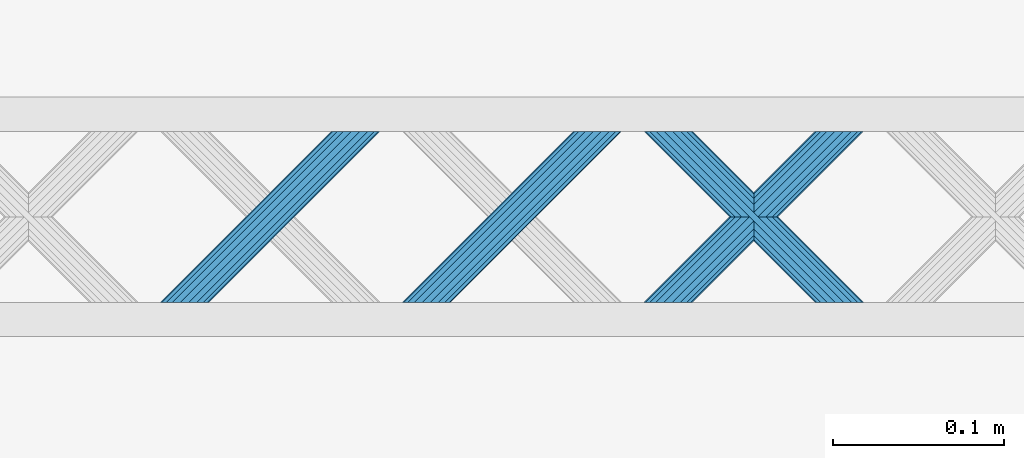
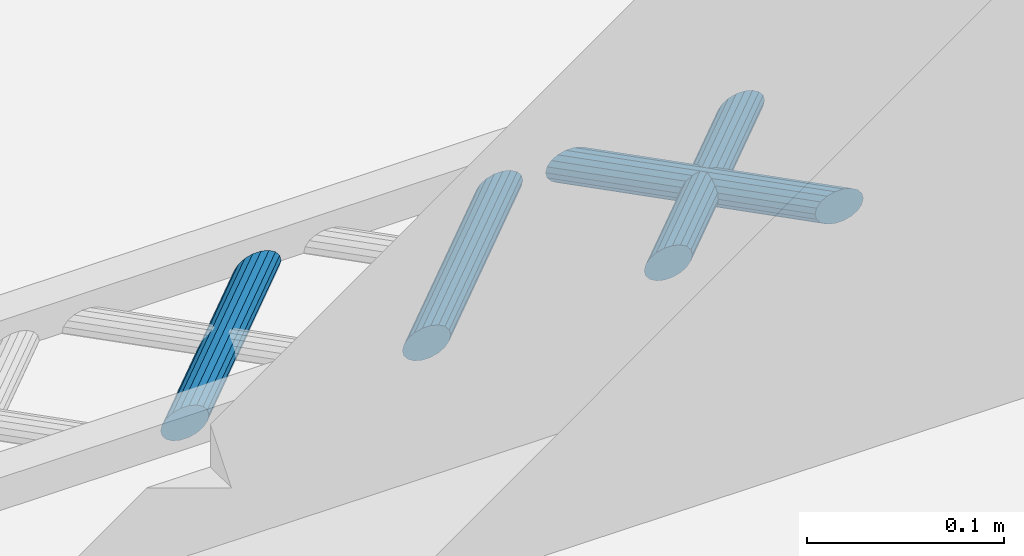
# One storey, part 68 of 133: 4 members, 1 element without a shape of its own.
"""IFC2X3 building model written with IfcOpenShell, lengths in centimetres."""

from ifc_helpers import new_model, entity, si_unit, converted_unit, direction, frame, origin, origin_with_axes, place, context, subcontext, project, spatial, faceted_brep, material, type_object, element, aggregate, save


model = new_model("IFC2X3")

# Units and contexts
model_context = context("Model", 3, precision=0.0001, world=origin(), true_north=direction((0.225632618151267, 0.974212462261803, 0.0)))
body_context = subcontext(model_context, "Body", "Model", "MODEL_VIEW")
ifc_project = project(units=[si_unit("LENGTHUNIT", "METRE", prefix="CENTI"), si_unit("AREAUNIT", "SQUARE_METRE", prefix="CENTI"), si_unit("VOLUMEUNIT", "CUBIC_METRE", prefix="CENTI"), converted_unit("PLANEANGLEUNIT", "DEGREE", entity("IfcRatioMeasure", 0.0174532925), si_unit("PLANEANGLEUNIT", "RADIAN"), dimensions=[0, 0, 0, 0, 0, 0, 0])], contexts=[model_context])

# Site, building, storey
site_placement = place(None, origin_with_axes())
site = spatial("IfcSite", under=ifc_project, at=site_placement, Name="Default Site", CompositionType="ELEMENT")
building_placement = place(site_placement, origin_with_axes())
building = spatial("IfcBuilding", under=site, at=building_placement, Name="Default Building", CompositionType="ELEMENT")
storey_placement = place(building_placement, frame((0.0, 0.0, -291.400371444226), z_axis=(0.0, 0.0, 1.0), x_axis=(1.0, 0.0, 0.0)))
storey = spatial("IfcBuildingStorey", under=building, at=storey_placement, Name="Rez-de-Jardin", CompositionType="ELEMENT", Elevation=-291.400371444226)

# Assembly, members
building_element_proxy_type = type_object("IfcBuildingElementProxyType", Name="Type Object", PredefinedType="NOTDEFINED")
assembly_placement = place(storey_placement, frame((-322.682568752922, 627.125798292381, 0.0), z_axis=(0.0, 1.0, -2.38697950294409e-15), x_axis=(1.0, 0.0, 0.0)))
assembly = element("IfcElementAssembly", 1, at=assembly_placement, inside=storey, type_object=building_element_proxy_type, Name="Panneau 92029", ObjectType="Precast panel", PredefinedType="USERDEFINED")
ifc_material = material(Name="Aluminium satiné")
member_1_placement = place(assembly_placement, frame((193.968534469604, 0.342020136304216, 11.9999997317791), z_axis=(1.16937209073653e-15, -1.43220862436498e-15, 1.0), x_axis=(0.632448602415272, -0.774602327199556, -1.84895987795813e-15)))
member_1 = element("IfcMember", 2, at=member_1_placement, material=ifc_material, Name="4294966818", context=body_context, shape_type="Brep", body=[
    faceted_brep([(2.22044604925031e-14, 2.22044604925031e-14, -1.23512311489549e-13), (-0.388286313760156, 4.44089209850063e-14, -1.24230237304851e-13), (-0.799164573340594, -0.150256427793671, -1.24989934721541e-13), (-1.18306811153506, -0.432635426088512, -1.25699756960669e-13), (-1.49369789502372, -0.81308460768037, -1.26274098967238e-13), (-1.6935832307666, -1.24571109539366, -1.26643678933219e-13), (-1.75861293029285, -1.67833114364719, -1.26763916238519e-13), (-1.68095640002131, -2.05878032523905, -1.26620332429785e-13), (-1.46996349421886, -2.3411503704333, -1.26230215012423e-13), (-1.15109721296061, -2.49140063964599, -1.25640644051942e-13), (-0.76280335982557, -2.4913914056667, -1.24922704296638e-13), (-0.351932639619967, -2.3411442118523, -1.2416302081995e-13), (0.0319708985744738, -2.05876521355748, -1.23453198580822e-13), (0.342600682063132, -1.67831603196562, -1.22878856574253e-13), (0.542486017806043, -1.2456895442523, -1.22509276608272e-13), (0.607523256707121, -0.81306026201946, -1.22389025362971e-13), (0.529859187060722, -0.432620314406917, -1.22532623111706e-13), (0.318873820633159, -0.150241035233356, -1.22922726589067e-13), (-6.00561371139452, -7.89626615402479, -9.99999977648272), (-5.79462834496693, -8.17864543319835, -9.99999977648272), (-5.71696427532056, -8.55908538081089, -9.99999977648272), (-5.78200151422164, -8.99171466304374, -9.99999977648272), (-5.98188684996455, -9.42434115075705, -9.99999977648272), (-6.29250909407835, -9.8047810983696, -9.99999977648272), (-6.67641263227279, -10.0871600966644, -9.99999977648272), (-7.08729089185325, -10.2374165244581, -9.99999977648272), (-7.47557720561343, -10.2374165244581, -9.99999977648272), (-7.79445102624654, -10.0871754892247, -9.99999977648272), (-8.00543639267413, -9.80479621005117, -9.99999977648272), (-8.08310046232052, -9.42435626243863, -9.99999977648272), (-8.01806322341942, -8.99172698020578, -9.99999977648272), (-7.81817788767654, -8.55910049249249, -9.99999977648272), (-7.50755564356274, -8.17866054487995, -9.99999977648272), (-7.12365210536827, -7.8962815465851, -9.99999977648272), (-6.71277384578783, -7.74602511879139, -9.99999977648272), (-6.32448753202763, -7.74602511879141, -9.99999977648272), (0.318873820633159, -0.150241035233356, -1.22124532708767e-13), (0.52986188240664, -0.432618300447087, -3.26468585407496e-06), (-5.7946246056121, -8.17864263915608, -10.0000043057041), (-6.00561266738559, -7.89626537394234, -10.0000010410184), (0.529859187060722, -0.432620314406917, -1.23512311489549e-13), (0.607521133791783, -0.813060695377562, 1.67831491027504e-06), (-5.71696516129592, -8.55908556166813, -9.99999907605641), (-5.79462710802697, -8.17864518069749, -10.0000007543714), (0.607523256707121, -0.81306026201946, -1.22124532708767e-13), (0.542487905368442, -1.24568982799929, -9.73995247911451e-07), (-5.78199858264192, -8.99171510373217, -10.0000012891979), (-5.71696323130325, -8.55908553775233, -10.0000003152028), (0.542486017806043, -1.2456895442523, -1.22124532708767e-13), (0.342600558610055, -1.67831597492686, 3.38952459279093e-08), (-5.98188641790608, -9.42434135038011, -9.99999989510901), (-5.78200095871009, -8.99171491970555, -9.99999992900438), (0.342600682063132, -1.67831603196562, -1.22124532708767e-13), (0.0319708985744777, -2.05876521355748, -1.23512311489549e-13), (-6.29250909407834, -9.8047810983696, -9.99999977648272), (0.0319708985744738, -2.05876521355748, -1.23512311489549e-13), (-0.351932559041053, -2.34114432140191, 3.38952419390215e-08), (-6.67641125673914, -10.0871619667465, -9.99999919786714), (-6.29250779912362, -9.80478285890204, -9.99999923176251), (-0.351932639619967, -2.3411442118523, -1.23512311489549e-13), (-0.762802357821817, -2.4913941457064, 1.48872512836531e-06), (-7.08729025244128, -10.2374182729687, -9.99999882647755), (-6.67641133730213, -10.0871636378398, -9.99999785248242), (-0.76280335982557, -2.4913914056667, -1.2490009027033e-13), (-1.15109721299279, -2.49139703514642, -2.79203352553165e-06), (-7.47557720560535, -10.2374174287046, -9.9999990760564), (-7.08729089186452, -10.2374152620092, -10.0000007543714), (-1.15109721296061, -2.49140063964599, -1.26287869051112e-13), (-1.46996459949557, -2.34115271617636, 2.51604861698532e-06), (-7.79445157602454, -10.0871766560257, -9.99999852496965), (-7.47557918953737, -10.2374207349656, -9.99999526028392), (-1.46996349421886, -2.3411503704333, -1.26287869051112e-13), (-1.68095432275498, -2.05877877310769, -2.51604887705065e-06), (-8.00543804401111, -9.80479744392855, -9.99999777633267), (-7.79444998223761, -10.0871747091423, -10.0000010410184), (-1.68095640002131, -2.05878032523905, -1.26287869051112e-13), (-1.75861646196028, -1.67833186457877, 2.7920332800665e-06), (-8.08310275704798, -9.42435673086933, -9.99999796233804), (-8.00544081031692, -9.80479711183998, -9.99999628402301), (-1.75861293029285, -1.67833114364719, -1.27675647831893e-13), (-1.69358034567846, -1.24571152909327, -1.48872537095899e-06), (-8.01806406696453, -8.99172685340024, -9.99999934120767), (-8.08309941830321, -9.42435641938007, -10.0000003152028), (-1.6935832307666, -1.24571109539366, -1.26287869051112e-13), (-1.49369777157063, -0.813084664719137, -3.38954968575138e-08), (-7.81817974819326, -8.55909963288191, -9.99999926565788), (-8.01806520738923, -8.99172606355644, -9.99999923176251), (-1.49369789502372, -0.81308460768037, -1.26287869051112e-13), (-1.18306811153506, -0.432635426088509, -1.2490009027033e-13), (-7.50755564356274, -8.17866054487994, -9.99999977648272), (-1.18306811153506, -0.432635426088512, -1.2490009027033e-13), (-0.799164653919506, -0.150256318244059, -3.38954891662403e-08), (-7.12365254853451, -7.89628094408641, -9.99999996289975), (-7.50755600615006, -8.17866005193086, -9.99999992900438), (-0.799164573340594, -0.150256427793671, -1.2490009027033e-13), (-0.388285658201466, -1.7926647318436e-06, 9.73995005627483e-07), (-6.71277355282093, -7.74602591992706, -9.99999934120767), (-7.12365246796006, -7.896280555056, -10.0000003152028), (-0.388286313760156, 4.44089209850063e-14, -1.2490009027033e-13), (-1.93225674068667e-11, 2.16669539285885e-06, -1.67831516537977e-06), (-6.32448753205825, -7.74602168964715, -10.0000024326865), (-6.71277384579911, -7.7460238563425, -10.0000007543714), (0.31887238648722, -0.150244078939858, 3.26468561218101e-06), (-6.00561459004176, -7.8962680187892, -9.99999777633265), (-6.32448697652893, -7.74602393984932, -10.0000010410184)], [[[0, 1, 2, 3, 4, 5, 6, 7, 8, 9, 10, 11, 12, 13, 14, 15, 16, 17]], [[18, 19, 20, 21, 22, 23, 24, 25, 26, 27, 28, 29, 30, 31, 32, 33, 34, 35]], [[36, 37, 38, 39]], [[40, 41, 42, 43]], [[44, 45, 46, 47]], [[48, 49, 50, 51]], [[52, 53, 54, 22]], [[55, 56, 57, 58]], [[59, 60, 61, 62]], [[63, 64, 65, 66]], [[67, 68, 69, 70]], [[71, 72, 73, 74]], [[75, 76, 77, 78]], [[79, 80, 81, 82]], [[83, 84, 85, 86]], [[87, 88, 89, 31]], [[90, 91, 92, 93]], [[94, 95, 96, 97]], [[98, 99, 100, 101]], [[0, 102, 103, 104]]]),
])
member_2_placement = place(assembly_placement, frame((208.110666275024, 0.342020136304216, 11.9999997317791), z_axis=(1.16937209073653e-15, -1.43220862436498e-15, 1.0), x_axis=(0.632448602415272, -0.774602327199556, -1.84895987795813e-15)))
member_2 = element("IfcMember", 3, at=member_2_placement, material=ifc_material, Name="4294966817", context=body_context, shape_type="Brep", body=[
    faceted_brep([(0.0, 2.22044604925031e-14, -1.06858966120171e-13), (-0.388286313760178, 2.22044604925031e-14, -1.07576891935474e-13), (-0.799164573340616, -0.150256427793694, -1.08336589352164e-13), (-1.18306811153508, -0.432635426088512, -1.09046411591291e-13), (-1.49369035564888, -0.813075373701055, -1.09620739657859e-13), (-1.69357569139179, -1.24570186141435, -1.0999031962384e-13), (-1.75861293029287, -1.67833114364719, -1.10110570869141e-13), (-1.68094886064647, -2.05877109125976, -1.09966973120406e-13), (-1.46995595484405, -2.34114113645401, -1.09576855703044e-13), (-1.15108967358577, -2.4913914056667, -1.08987284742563e-13), (-0.762803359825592, -2.4913914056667, -1.0826935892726e-13), (-0.351925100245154, -2.34113497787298, -1.07509661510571e-13), (0.0319784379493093, -2.05875597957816, -1.06799839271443e-13), (0.34260068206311, -1.67831603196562, -1.06225511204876e-13), (0.542486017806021, -1.24568954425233, -1.05855931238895e-13), (0.607523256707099, -0.813060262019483, -1.05735679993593e-13), (0.529859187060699, -0.432620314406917, -1.05879277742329e-13), (0.318866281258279, -0.150250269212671, -1.06269395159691e-13), (-6.00561371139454, -7.89626615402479, -9.9999997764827), (-5.79462080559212, -8.17863619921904, -9.9999997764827), (-5.71696427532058, -8.55908538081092, -9.9999997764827), (-5.7819939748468, -8.99170542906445, -9.9999997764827), (-5.98187931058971, -9.42433191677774, -9.9999997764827), (-6.29250909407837, -9.8047810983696, -9.9999997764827), (-6.67641263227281, -10.0871600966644, -9.99999977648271), (-7.08729089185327, -10.2374165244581, -9.99999977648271), (-7.47557720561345, -10.2374165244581, -9.99999977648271), (-7.79445102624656, -10.0871754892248, -9.99999977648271), (-8.00543639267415, -9.80479621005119, -9.99999977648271), (-8.08310046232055, -9.42435626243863, -9.99999977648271), (-8.01806322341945, -8.99172698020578, -9.99999977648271), (-7.81817788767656, -8.55910049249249, -9.99999977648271), (-7.5075481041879, -8.17865131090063, -9.99999977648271), (-7.12364456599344, -7.89627231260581, -9.99999977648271), (-6.71277384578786, -7.74602511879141, -9.99999977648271), (-6.32447999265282, -7.7460158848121, -9.9999997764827), (0.318866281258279, -0.150250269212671, -1.06858966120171e-13), (0.529857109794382, -0.432621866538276, 2.51604863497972e-06), (-5.79462661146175, -8.17864053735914, -9.99999274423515), (-6.00561743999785, -7.89626894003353, -9.9999952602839), (0.529859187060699, -0.432620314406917, -1.06858966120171e-13), (0.607521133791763, -0.813060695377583, 1.67831492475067e-06), (-5.71696516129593, -8.55908556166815, -9.99999907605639), (-5.79462522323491, -8.17863710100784, -9.99999628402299), (0.607523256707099, -0.813060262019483, -1.0547118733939e-13), (0.54248790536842, -1.24568982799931, -9.73995231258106e-07), (-5.78199581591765, -8.99170515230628, -9.99999882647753), (-5.71696323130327, -8.55908553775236, -10.0000003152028), (0.542486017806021, -1.24568954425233, -1.0547118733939e-13), (0.342600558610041, -1.67831597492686, 3.3895259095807e-08), (-5.98188141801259, -9.42433094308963, -9.99999919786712), (-5.78199595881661, -8.9917045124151, -9.99999923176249), (0.34260068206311, -1.67831603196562, -1.06858966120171e-13), (0.0319784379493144, -2.05875597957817, -1.06858966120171e-13), (-6.29250909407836, -9.8047810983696, -9.99999977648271), (0.0319784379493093, -2.05875597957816, -1.06858966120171e-13), (-0.351925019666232, -2.34113508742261, 3.38952616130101e-08), (-6.67641291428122, -10.0871597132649, -9.999999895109), (-6.29250945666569, -9.80478060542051, -9.99999992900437), (-0.351925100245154, -2.34113497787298, -1.06858966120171e-13), (-0.762804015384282, -2.49138961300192, -9.73995238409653e-07), (-7.08729191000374, -10.2374137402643, -10.0000012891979), (-6.6764129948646, -10.0871591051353, -10.0000003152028), (-0.762803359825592, -2.4913914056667, -1.08246744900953e-13), (-1.15108967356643, -2.49139357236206, 1.67831492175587e-06), (-7.47557720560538, -10.2374174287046, -9.9999990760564), (-7.08729089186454, -10.2374152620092, -10.0000007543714), (-1.15108967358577, -2.4913914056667, -1.09634523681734e-13), (-1.46995706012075, -2.34114348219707, 2.51604862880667e-06), (-7.79444903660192, -10.0871712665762, -10.0000043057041), (-7.47557665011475, -10.237415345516, -10.0000010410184), (-1.46995595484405, -2.34114113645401, -1.09634523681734e-13), (-1.68094678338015, -2.0587695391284, -2.51604885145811e-06), (-8.0054332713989, -9.80479387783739, -10.0000035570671), (-7.79444520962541, -10.0871711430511, -10.0000068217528), (-1.68094886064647, -2.05877109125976, -1.09634523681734e-13), (-1.75861080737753, -1.67833071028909, -1.67831514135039e-06), (-8.08309710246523, -9.42435557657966, -10.0000024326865), (-8.00543515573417, -9.80479595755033, -10.0000007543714), (-1.75861293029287, -1.67833114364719, -1.11022302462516e-13), (-1.69357757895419, -1.24570157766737, 9.73995015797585e-07), (-8.01806406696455, -8.99172685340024, -9.99999934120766), (-8.08309941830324, -9.42435641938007, -10.0000003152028), (-1.69357569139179, -1.24570186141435, -1.09634523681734e-13), (-1.49369023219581, -0.813075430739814, -3.38954754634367e-08), (-7.81817720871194, -8.55910080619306, -9.99999996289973), (-8.01806266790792, -8.99172723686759, -9.99999992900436), (-1.49369035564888, -0.813075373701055, -1.09634523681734e-13), (-1.18306811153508, -0.432635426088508, -1.09634523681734e-13), (-1.18306811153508, -0.432635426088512, -1.09634523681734e-13), (-0.799164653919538, -0.150256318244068, -3.38954767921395e-08), (-7.12364335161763, -7.89627396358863, -9.99999926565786), (-7.50754680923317, -8.17865307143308, -9.99999923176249), (-0.799164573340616, -0.150256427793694, -1.08246744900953e-13), (-0.388285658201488, -1.79266475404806e-06, 9.73995022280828e-07), (-6.71277355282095, -7.74602591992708, -9.99999934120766), (-7.12364327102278, -7.89627585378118, -9.99999785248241), (-0.388286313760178, 2.22044604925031e-14, -1.08246744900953e-13), (-1.9344771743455e-11, 2.16669537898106e-06, -1.67831513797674e-06), (-6.32447999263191, -7.74601822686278, -9.99999796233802), (-6.71277384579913, -7.74602385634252, -10.0000007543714), (0.31886738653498, -0.150247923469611, -2.5160488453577e-06), (-6.00561459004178, -7.8962680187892, -9.99999777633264), (-6.32448197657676, -7.74602009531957, -9.9999952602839)], [[[0, 1, 2, 3, 4, 5, 6, 7, 8, 9, 10, 11, 12, 13, 14, 15, 16, 17]], [[18, 19, 20, 21, 22, 23, 24, 25, 26, 27, 28, 29, 30, 31, 32, 33, 34, 35]], [[36, 37, 38, 39]], [[40, 41, 42, 43]], [[44, 45, 46, 47]], [[48, 49, 50, 51]], [[52, 53, 54, 22]], [[55, 56, 57, 58]], [[59, 60, 61, 62]], [[63, 64, 65, 66]], [[67, 68, 69, 70]], [[71, 72, 73, 74]], [[75, 76, 77, 78]], [[79, 80, 81, 82]], [[83, 84, 85, 86]], [[87, 88, 32, 31]], [[89, 90, 91, 92]], [[93, 94, 95, 96]], [[97, 98, 99, 100]], [[0, 101, 102, 103]]]),
])
member_3_placement = place(assembly_placement, frame((222.252798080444, 0.342020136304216, 11.9999997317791), z_axis=(1.16937209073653e-15, -1.43220862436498e-15, 1.0), x_axis=(0.632448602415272, -0.774602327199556, -1.84895987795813e-15)))
member_3 = element("IfcMember", 4, at=member_3_placement, material=ifc_material, Name="4294966816", context=body_context, shape_type="Brep", body=[
    faceted_brep([(2.22044604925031e-14, 2.22044604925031e-14, -9.0205620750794e-14), (-0.388286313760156, 4.44089209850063e-14, -9.09235465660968e-14), (-0.799164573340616, -0.150256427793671, -9.16832439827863e-14), (-1.18306811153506, -0.43263542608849, -9.2393066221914e-14), (-1.49369035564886, -0.813075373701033, -9.29673942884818e-14), (-1.69357569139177, -1.24570186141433, -9.33369742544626e-14), (-1.75861293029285, -1.67833114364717, -9.34572254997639e-14), (-1.68094886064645, -2.05877109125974, -9.33136277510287e-14), (-1.46995595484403, -2.34114113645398, -9.29235103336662e-14), (-1.15108967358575, -2.49139140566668, -9.2333939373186e-14), (-0.76280335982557, -2.49139140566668, -9.16160135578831e-14), (-0.351925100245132, -2.34113497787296, -9.08563161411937e-14), (0.0319784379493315, -2.05875597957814, -9.01464939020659e-14), (0.342600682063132, -1.6783160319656, -8.95721658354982e-14), (0.542486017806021, -1.2456895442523, -8.92025858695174e-14), (0.607523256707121, -0.81306026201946, -8.90823346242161e-14), (0.529859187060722, -0.432620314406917, -8.92259323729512e-14), (0.318881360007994, -0.150231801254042, -8.96160219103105e-14), (-6.00561371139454, -7.89626615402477, -9.99999977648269), (-5.7946208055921, -8.17863619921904, -9.99999977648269), (-5.7169567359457, -8.55907614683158, -9.99999977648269), (-5.7819939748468, -8.99170542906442, -9.99999977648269), (-5.98187931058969, -9.42433191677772, -9.99999977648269), (-6.29250155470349, -9.80477186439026, -9.99999977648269), (-6.67640509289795, -10.0871508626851, -9.99999977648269), (-7.08728335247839, -10.2374072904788, -9.99999977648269), (-7.47556966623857, -10.2374072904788, -9.99999977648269), (-7.79445102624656, -10.0871754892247, -9.99999977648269), (-8.00542885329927, -9.80478697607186, -9.99999977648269), (-8.08309292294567, -9.42434702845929, -9.99999977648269), (-8.01805568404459, -8.99171774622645, -9.99999977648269), (-7.81817034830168, -8.55909125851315, -9.99999977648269), (-7.50754810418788, -8.17865131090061, -9.99999977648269), (-7.12364456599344, -7.89627231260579, -9.99999977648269), (-6.71276630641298, -7.74601588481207, -9.99999977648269), (-6.3244799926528, -7.7460158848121, -9.99999977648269), (0.318881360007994, -0.150231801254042, -9.0205620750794e-14), (0.529866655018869, -0.432614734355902, -9.04542028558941e-06), (-5.79461706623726, -8.17863340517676, -10.0000043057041), (-6.00560789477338, -7.89626180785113, -10.0000068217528), (0.529859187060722, -0.432620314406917, -9.0205620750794e-14), (0.607521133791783, -0.813060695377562, 1.67831494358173e-06), (-5.71696327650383, -8.55907748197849, -9.99999460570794), (-5.79462522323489, -8.17863710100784, -9.99999628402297), (0.607523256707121, -0.81306026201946, -8.88178419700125e-14), (0.542487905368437, -1.24568982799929, -9.73995223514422e-07), (-5.78199581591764, -8.99170515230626, -9.99999882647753), (-5.71696046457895, -8.55907558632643, -9.99999785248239), (0.542486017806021, -1.2456895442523, -8.88178419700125e-14), (0.342600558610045, -1.67831597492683, 3.38952804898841e-08), (-5.98188141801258, -9.42433094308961, -9.9999991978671), (-5.78199595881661, -8.99170451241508, -9.99999923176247), (0.342600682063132, -1.6783160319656, -9.0205620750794e-14), (0.0319784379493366, -2.05875597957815, -9.0205620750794e-14), (-6.29250155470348, -9.80477186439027, -9.99999977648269), (0.0319784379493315, -2.05875597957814, -9.0205620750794e-14), (-0.35192501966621, -2.34113508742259, 3.38952782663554e-08), (-6.6764037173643, -10.0871527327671, -9.9999991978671), (-6.29250025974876, -9.8047736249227, -9.99999923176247), (-0.351925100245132, -2.34113497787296, -9.0205620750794e-14), (-0.762804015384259, -2.4913896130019, -9.73995221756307e-07), (-7.08728271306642, -10.2374090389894, -9.99999882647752), (-6.6764037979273, -10.0871544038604, -9.99999785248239), (-0.76280335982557, -2.49139140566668, -9.15933995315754e-14), (-1.1510896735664, -2.49139357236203, 1.67831493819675e-06), (-7.47556966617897, -10.2374139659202, -9.99999460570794), (-7.08728335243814, -10.2374117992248, -9.99999628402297), (-1.15108967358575, -2.49139140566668, -9.29811783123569e-14), (-1.46995706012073, -2.34114348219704, 2.51604864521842e-06), (-7.79444903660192, -10.0871712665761, -10.0000043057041), (-7.47557165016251, -10.2374115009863, -9.99999526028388), (-1.46995595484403, -2.34114113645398, -9.29811783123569e-14), (-1.68094678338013, -2.05876953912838, -2.51604883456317e-06), (-8.00543050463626, -9.80478820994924, -9.99999777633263), (-7.7944452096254, -10.0871711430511, -10.0000068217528), (-1.68094886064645, -2.05877109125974, -9.29811783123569e-14), (-1.75861080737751, -1.67833071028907, -1.67831512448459e-06), (-8.08309521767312, -9.42434749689, -9.999997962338), (-8.00543327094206, -9.80478787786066, -9.99999628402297), (-1.75861293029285, -1.67833114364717, -9.43689570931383e-14), (-1.69357757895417, -1.24570157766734, 9.73995032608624e-07), (-8.01806130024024, -8.99171690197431, -9.99999687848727), (-8.08309665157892, -9.42434646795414, -9.9999978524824), (-1.69357569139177, -1.24570186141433, -9.29811783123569e-14), (-1.49369023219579, -0.813075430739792, -3.38954588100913e-08), (-7.81817220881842, -8.55909039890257, -9.99999926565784), (-8.0180576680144, -8.9917168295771, -9.99999923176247), (-1.49369035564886, -0.813075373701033, -9.29811783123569e-14), (-1.18306811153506, -0.432635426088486, -9.29811783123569e-14), (-1.18306811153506, -0.43263542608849, -9.29811783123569e-14), (-0.799164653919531, -0.150256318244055, -3.38954570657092e-08), (-7.12364335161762, -7.89627396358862, -9.99999926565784), (-7.50754680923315, -8.17865307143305, -9.99999923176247), (-0.799164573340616, -0.150256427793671, -9.15933995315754e-14), (-0.388285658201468, -1.79266472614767e-06, 9.73995035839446e-07), (-6.71276435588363, -7.74602121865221, -9.99999687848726), (-7.12364327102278, -7.89627585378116, -9.99999785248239), (-0.388286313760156, 4.44089209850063e-14, -9.15933995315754e-14), (-1.93225674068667e-11, 2.16669539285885e-06, -1.67831513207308e-06), (-6.32447999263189, -7.74601822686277, -9.99999796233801), (-6.71276630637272, -7.74602039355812, -9.99999628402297), (0.318877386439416, -0.150240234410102, 9.04542011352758e-06), (-6.00561459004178, -7.89626801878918, -9.99999777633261), (-6.32448197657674, -7.74602009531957, -9.99999526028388)], [[[0, 1, 2, 3, 4, 5, 6, 7, 8, 9, 10, 11, 12, 13, 14, 15, 16, 17]], [[18, 19, 20, 21, 22, 23, 24, 25, 26, 27, 28, 29, 30, 31, 32, 33, 34, 35]], [[36, 37, 38, 39]], [[40, 41, 42, 43]], [[44, 45, 46, 47]], [[48, 49, 50, 51]], [[52, 53, 54, 22]], [[55, 56, 57, 58]], [[59, 60, 61, 62]], [[63, 64, 65, 66]], [[67, 68, 69, 70]], [[71, 72, 73, 74]], [[75, 76, 77, 78]], [[79, 80, 81, 82]], [[83, 84, 85, 86]], [[87, 88, 32, 31]], [[89, 90, 91, 92]], [[93, 94, 95, 96]], [[97, 98, 99, 100]], [[0, 101, 102, 103]]]),
])
member_4_placement = place(assembly_placement, frame((219.594955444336, 0.342020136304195, 1.99999995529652), z_axis=(1.16937209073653e-15, 1.43220862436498e-15, -1.0), x_axis=(-0.632448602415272, -0.774602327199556, -1.84895987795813e-15)))
member_4 = element("IfcMember", 5, at=member_4_placement, material=ifc_material, Name="4294966811", context=body_context, shape_type="Brep", body=[
    faceted_brep([(-4.44089209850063e-14, 4.44089209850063e-14, 1.67227343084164e-13), (-0.388286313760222, 4.44089209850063e-14, 1.67945268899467e-13), (-0.79916457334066, -0.150256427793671, 1.68704966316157e-13), (-1.18306811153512, -0.43263542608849, 1.69414788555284e-13), (-1.49369035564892, -0.813075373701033, 1.69989116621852e-13), (-1.69357569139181, -1.24570186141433, 1.70358696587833e-13), (-1.75861293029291, -1.67833114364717, 1.70478947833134e-13), (-1.68094886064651, -2.05877109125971, 1.70335350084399e-13), (-1.46997103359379, -2.34115960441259, 1.6994526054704e-13), (-1.15108967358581, -2.49139140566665, 1.69355661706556e-13), (-0.762803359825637, -2.49139140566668, 1.68637735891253e-13), (-0.351925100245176, -2.34113497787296, 1.67878038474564e-13), (0.0319784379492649, -2.05875597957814, 1.67168216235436e-13), (0.342600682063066, -1.6783160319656, 1.66593888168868e-13), (0.542486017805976, -1.2456895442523, 1.66224308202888e-13), (0.607523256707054, -0.81306026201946, 1.66104056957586e-13), (0.529859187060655, -0.432620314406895, 1.66247654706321e-13), (0.318866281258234, -0.150250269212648, 1.66637772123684e-13), (6.64336135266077, 7.5957840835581, -9.99999977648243), (6.85433917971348, 7.31339557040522, -9.99999977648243), (6.93200324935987, 6.93295562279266, -9.99999977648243), (6.8669660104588, 6.50032634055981, -9.99999977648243), (6.66708067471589, 6.06769985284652, -9.99999977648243), (6.35645843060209, 5.68725990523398, -9.99999977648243), (5.97255489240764, 5.40488090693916, -9.99999977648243), (5.56167663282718, 5.25462447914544, -9.99999977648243), (5.17339031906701, 5.25462447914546, -9.99999977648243), (4.85452403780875, 5.40487474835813, -9.99999977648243), (4.64353113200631, 5.6872447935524, -9.99999977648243), (4.56586706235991, 6.06768474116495, -9.99999977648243), (4.63090430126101, 6.50031402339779, -9.99999977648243), (4.8307896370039, 6.93294051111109, -9.99999977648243), (5.1414118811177, 7.31338045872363, -9.99999977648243), (5.52531541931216, 7.59575945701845, -9.99999977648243), (5.9361936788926, 7.74601588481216, -9.99999977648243), (6.32447999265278, 7.74601588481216, -9.99999977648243), (0.318866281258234, -0.150250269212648, 1.66880398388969e-13), (0.529857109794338, -0.432621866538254, -2.51604857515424e-06), (6.85434083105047, 7.31339680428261, -9.99999777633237), (6.64335553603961, 7.59577973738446, -10.0000068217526), (0.529859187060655, -0.432620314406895, 1.66533453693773e-13), (0.607521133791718, -0.813060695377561, -1.67831486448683e-06), (6.93200554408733, 6.93295609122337, -9.99999796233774), (6.85434359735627, 7.31339647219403, -9.99999628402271), (0.607523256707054, -0.81306026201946, 1.66186508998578e-13), (0.542487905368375, -1.24568982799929, 9.73995291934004e-07), (6.86697162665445, 6.50032549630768, -9.99999687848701), (6.93200697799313, 6.93295506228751, -9.99999785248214), (0.542486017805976, -1.2456895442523, 1.66186508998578e-13), (0.342600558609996, -1.67831597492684, -3.3895198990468e-08), (6.66708253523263, 6.06769899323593, -9.99999926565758), (6.86696799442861, 6.50032542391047, -9.99999923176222), (0.342600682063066, -1.6783160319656, 1.66880398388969e-13), (0.03197843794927, -2.05875597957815, 1.67227343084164e-13), (6.35645843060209, 5.68725990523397, -9.99999977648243), (6.66708067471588, 6.06769985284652, -9.99999977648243), (0.0319784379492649, -2.05875597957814, 1.67227343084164e-13), (-0.351925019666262, -2.34113508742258, -3.38951975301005e-08), (5.97255367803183, 5.40488255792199, -9.99999926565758), (6.35645713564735, 5.68726166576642, -9.99999923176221), (-0.351925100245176, -2.34113497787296, 1.67921232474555e-13), (-0.762804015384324, -2.49138961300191, 9.73995295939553e-07), (5.56167468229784, 5.25462981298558, -9.99999687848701), (5.97255359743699, 5.40488444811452, -9.99999785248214), (-0.762803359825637, -2.49139140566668, 1.68615121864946e-13), (-1.15108967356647, -2.49139357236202, -1.67831487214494e-06), (5.1733903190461, 5.25462682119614, -9.99999796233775), (5.56167663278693, 5.25462898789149, -9.99999628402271), (-1.15108967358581, -2.49139140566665, 1.69655955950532e-13), (-1.46996706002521, -2.34115117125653, 9.04542037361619e-06), (4.85452491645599, 5.40487661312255, -9.99999777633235), (5.17339230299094, 5.25462868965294, -9.99999526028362), (-1.46997103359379, -2.34115960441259, 1.70002900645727e-13), (-1.68095632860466, -2.05877667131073, -9.04542002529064e-06), (4.64352739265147, 5.68724199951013, -10.0000043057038), (4.85451822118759, 5.4048704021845, -10.0000068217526), (-1.68094886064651, -2.05877109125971, 1.70349845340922e-13), (-1.75861080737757, -1.67833071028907, 1.67831520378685e-06), (4.56587360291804, 6.06768607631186, -9.99999460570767), (4.6435355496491, 5.68724569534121, -9.99999628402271), (-1.75861293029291, -1.67833114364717, 1.70696790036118e-13), (-1.69357757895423, -1.24570157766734, -9.73994963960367e-07), (4.63090614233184, 6.50031374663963, -9.99999882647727), (4.56587079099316, 6.0676841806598, -9.99999785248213), (-1.69357569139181, -1.24570186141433, 1.70696790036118e-13), (-1.49369023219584, -0.8130754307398, 3.38955406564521e-08), (4.83079174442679, 6.93293953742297, -9.99999919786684), (4.63090628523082, 6.50031310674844, -9.99999923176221), (-1.49369035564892, -0.813075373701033, 1.70002900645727e-13), (-1.18306811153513, -0.432635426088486, 1.69655955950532e-13), (5.14141188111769, 7.31338045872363, -9.99999977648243), (4.83078963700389, 6.93294051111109, -9.99999977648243), (-1.18306811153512, -0.43263542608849, 1.69655955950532e-13), (-0.799164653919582, -0.150256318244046, 3.38955374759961e-08), (5.52531404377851, 7.59576132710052, -9.99999919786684), (5.14141058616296, 7.31338221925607, -9.99999923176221), (-0.79916457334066, -0.150256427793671, 1.68962066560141e-13), (-0.388285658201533, -1.7926647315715e-06, -9.73994962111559e-07), (5.93619303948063, 7.74601763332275, -9.99999882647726), (5.5253141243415, 7.59576299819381, -9.99999785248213), (-0.388286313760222, 4.44089209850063e-14, 1.6826817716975e-13), (-1.93891806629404e-11, 2.16669540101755e-06, 1.67831519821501e-06), (6.32447999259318, 7.74602256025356, -9.99999460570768), (5.93619367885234, 7.74602039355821, -9.99999628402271), (0.318867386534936, -0.150247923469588, 2.51604890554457e-06), (6.64335936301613, 7.5957798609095, -10.0000043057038), (6.32448197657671, 7.74602009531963, -9.99999526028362)], [[[0, 1, 2, 3, 4, 5, 6, 7, 8, 9, 10, 11, 12, 13, 14, 15, 16, 17]], [[18, 19, 20, 21, 22, 23, 24, 25, 26, 27, 28, 29, 30, 31, 32, 33, 34, 35]], [[36, 37, 38, 39]], [[40, 41, 42, 43]], [[44, 45, 46, 47]], [[48, 49, 50, 51]], [[52, 53, 54, 55]], [[56, 57, 58, 59]], [[60, 61, 62, 63]], [[64, 65, 66, 67]], [[68, 69, 70, 71]], [[72, 73, 74, 75]], [[76, 77, 78, 79]], [[80, 81, 82, 83]], [[84, 85, 86, 87]], [[88, 89, 90, 91]], [[92, 93, 94, 95]], [[96, 97, 98, 99]], [[100, 101, 102, 103]], [[0, 104, 105, 106]]]),
])
aggregate(assembly, [member_1, member_2, member_3, member_4])

save(model, "model.ifc")
